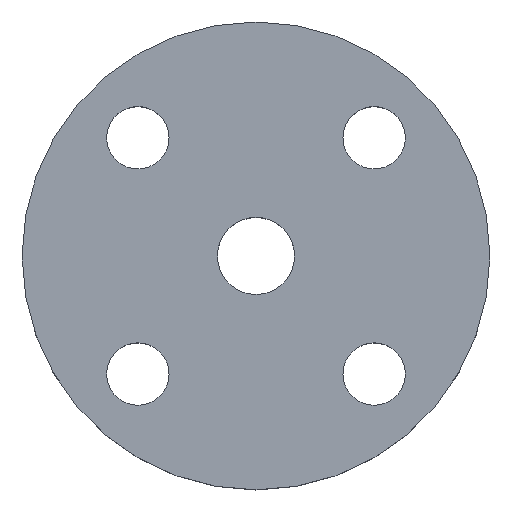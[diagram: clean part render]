
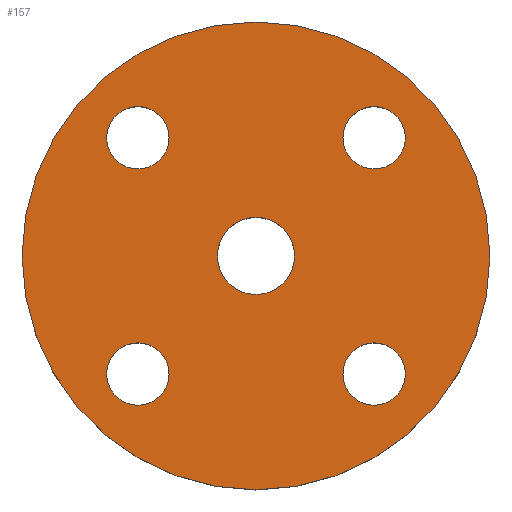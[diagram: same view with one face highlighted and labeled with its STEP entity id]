
A CAD part, top view. The second image highlights one B-rep face of the part: STEP entity #157.
In plain terms, the highlighted planar face has unit normal (0, 0, 1).
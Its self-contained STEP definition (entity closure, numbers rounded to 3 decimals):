
#1 = EDGE_CURVE ( 'NONE', #408, #425, #511, .T. ) ;
#5 = AXIS2_PLACEMENT_3D ( 'NONE', #548, #549, #550 ) ;
#11 = AXIS2_PLACEMENT_3D ( 'NONE', #148, #146, #162 ) ;
#16 = CIRCLE ( 'NONE', #5, 7. ) ;
#19 = AXIS2_PLACEMENT_3D ( 'NONE', #229, #230, #231 ) ;
#46 = DIRECTION ( 'NONE',  ( 0., 0., -1. ) ) ;
#47 = CARTESIAN_POINT ( 'NONE',  ( 26.517, -26.517, 0. ) ) ;
#49 = CIRCLE ( 'NONE', #142, 7. ) ;
#67 = AXIS2_PLACEMENT_3D ( 'NONE', #617, #618, #619 ) ;
#69 = EDGE_CURVE ( 'NONE', #416, #431, #145, .T. ) ;
#85 = AXIS2_PLACEMENT_3D ( 'NONE', #605, #606, #607 ) ;
#96 = CARTESIAN_POINT ( 'NONE',  ( 8.647, 0., 0. ) ) ;
#97 = CARTESIAN_POINT ( 'NONE',  ( -26.517, 26.517, 0. ) ) ;
#98 = CIRCLE ( 'NONE', #19, 8.647 ) ;
#99 = DIRECTION ( 'NONE',  ( 0., 0., -1. ) ) ;
#100 = DIRECTION ( 'NONE',  ( -1., 0., 0. ) ) ;
#127 = EDGE_CURVE ( 'NONE', #296, #405, #202, .T. ) ;
#128 = CARTESIAN_POINT ( 'NONE',  ( -33.517, -26.517, 0. ) ) ;
#140 = AXIS2_PLACEMENT_3D ( 'NONE', #474, #475, #476 ) ;
#141 = EDGE_CURVE ( 'NONE', #407, #439, #209, .T. ) ;
#142 = AXIS2_PLACEMENT_3D ( 'NONE', #563, #564, #568 ) ;
#144 = CIRCLE ( 'NONE', #458, 7. ) ;
#145 = CIRCLE ( 'NONE', #140, 52.5 ) ;
#146 = DIRECTION ( 'NONE',  ( 0., 0., 1. ) ) ;
#148 = CARTESIAN_POINT ( 'NONE',  ( 0., 0., 0. ) ) ;
#149 = CIRCLE ( 'NONE', #85, 7. ) ;
#157 = ADVANCED_FACE ( 'NONE', ( #519, #520, #521, #522, #523, #524 ), #525, .T. ) ;
#158 = AXIS2_PLACEMENT_3D ( 'NONE', #499, #500, #501 ) ;
#162 = DIRECTION ( 'NONE',  ( 1., 0., 0. ) ) ;
#163 = CARTESIAN_POINT ( 'NONE',  ( 19.517, -26.517, 0. ) ) ;
#174 = EDGE_CURVE ( 'NONE', #415, #362, #16, .T. ) ;
#180 = EDGE_LOOP ( 'NONE', ( #333, #334 ) ) ;
#182 = EDGE_LOOP ( 'NONE', ( #344, #345 ) ) ;
#185 = EDGE_CURVE ( 'NONE', #425, #408, #49, .T. ) ;
#186 = CIRCLE ( 'NONE', #11, 52.5 ) ;
#194 = AXIS2_PLACEMENT_3D ( 'NONE', #505, #506, #508 ) ;
#202 = CIRCLE ( 'NONE', #158, 8.647 ) ;
#209 = CIRCLE ( 'NONE', #194, 7. ) ;
#211 = EDGE_CURVE ( 'NONE', #362, #415, #149, .T. ) ;
#216 = CARTESIAN_POINT ( 'NONE',  ( -8.647, 0., 0. ) ) ;
#217 = CARTESIAN_POINT ( 'NONE',  ( 19.517, 26.517, 0. ) ) ;
#220 = CARTESIAN_POINT ( 'NONE',  ( -19.517, -26.517, 0. ) ) ;
#221 = CARTESIAN_POINT ( 'NONE',  ( 52.5, 0., 0. ) ) ;
#228 = CARTESIAN_POINT ( 'NONE',  ( -19.517, 26.517, 0. ) ) ;
#229 = CARTESIAN_POINT ( 'NONE',  ( 0., 0., 0. ) ) ;
#230 = DIRECTION ( 'NONE',  ( 0., 0., 1. ) ) ;
#231 = DIRECTION ( 'NONE',  ( 1., 0., 0. ) ) ;
#232 = CARTESIAN_POINT ( 'NONE',  ( 33.517, 26.517, 0. ) ) ;
#236 = EDGE_CURVE ( 'NONE', #422, #436, #585, .T. ) ;
#237 = CARTESIAN_POINT ( 'NONE',  ( -52.5, 0., 0. ) ) ;
#239 = CARTESIAN_POINT ( 'NONE',  ( -33.517, 26.517, 0. ) ) ;
#244 = CIRCLE ( 'NONE', #272, 7. ) ;
#245 = CARTESIAN_POINT ( 'NONE',  ( 33.517, -26.517, 0. ) ) ;
#269 = DIRECTION ( 'NONE',  ( -1., 0., 0. ) ) ;
#272 = AXIS2_PLACEMENT_3D ( 'NONE', #97, #99, #100 ) ;
#296 = VERTEX_POINT ( 'NONE', #96 ) ;
#299 = EDGE_CURVE ( 'NONE', #436, #422, #244, .T. ) ;
#327 = EDGE_LOOP ( 'NONE', ( #342, #343 ) ) ;
#333 = ORIENTED_EDGE ( 'NONE', *, *, #565, .T. ) ;
#334 = ORIENTED_EDGE ( 'NONE', *, *, #141, .T. ) ;
#335 = ORIENTED_EDGE ( 'NONE', *, *, #174, .T. ) ;
#336 = ORIENTED_EDGE ( 'NONE', *, *, #211, .T. ) ;
#337 = ORIENTED_EDGE ( 'NONE', *, *, #236, .T. ) ;
#338 = ORIENTED_EDGE ( 'NONE', *, *, #299, .T. ) ;
#339 = ORIENTED_EDGE ( 'NONE', *, *, #185, .T. ) ;
#341 = ORIENTED_EDGE ( 'NONE', *, *, #1, .T. ) ;
#342 = ORIENTED_EDGE ( 'NONE', *, *, #127, .F. ) ;
#343 = ORIENTED_EDGE ( 'NONE', *, *, #423, .F. ) ;
#344 = ORIENTED_EDGE ( 'NONE', *, *, #69, .T. ) ;
#345 = ORIENTED_EDGE ( 'NONE', *, *, #396, .T. ) ;
#362 = VERTEX_POINT ( 'NONE', #128 ) ;
#396 = EDGE_CURVE ( 'NONE', #431, #416, #186, .T. ) ;
#405 = VERTEX_POINT ( 'NONE', #216 ) ;
#407 = VERTEX_POINT ( 'NONE', #163 ) ;
#408 = VERTEX_POINT ( 'NONE', #217 ) ;
#415 = VERTEX_POINT ( 'NONE', #220 ) ;
#416 = VERTEX_POINT ( 'NONE', #221 ) ;
#422 = VERTEX_POINT ( 'NONE', #228 ) ;
#423 = EDGE_CURVE ( 'NONE', #405, #296, #98, .T. ) ;
#424 = EDGE_LOOP ( 'NONE', ( #337, #338 ) ) ;
#425 = VERTEX_POINT ( 'NONE', #232 ) ;
#429 = EDGE_LOOP ( 'NONE', ( #339, #341 ) ) ;
#431 = VERTEX_POINT ( 'NONE', #237 ) ;
#435 = EDGE_LOOP ( 'NONE', ( #335, #336 ) ) ;
#436 = VERTEX_POINT ( 'NONE', #239 ) ;
#439 = VERTEX_POINT ( 'NONE', #245 ) ;
#440 = CARTESIAN_POINT ( 'NONE',  ( 26.517, 26.517, 0. ) ) ;
#441 = DIRECTION ( 'NONE',  ( 0., 0., -1. ) ) ;
#442 = DIRECTION ( 'NONE',  ( -1., 0., 0. ) ) ;
#458 = AXIS2_PLACEMENT_3D ( 'NONE', #47, #46, #269 ) ;
#474 = CARTESIAN_POINT ( 'NONE',  ( 0., 0., 0. ) ) ;
#475 = DIRECTION ( 'NONE',  ( 0., 0., 1. ) ) ;
#476 = DIRECTION ( 'NONE',  ( 1., 0., 0. ) ) ;
#497 = AXIS2_PLACEMENT_3D ( 'NONE', #440, #441, #442 ) ;
#499 = CARTESIAN_POINT ( 'NONE',  ( 0., 0., 0. ) ) ;
#500 = DIRECTION ( 'NONE',  ( 0., 0., 1. ) ) ;
#501 = DIRECTION ( 'NONE',  ( 1., 0., 0. ) ) ;
#505 = CARTESIAN_POINT ( 'NONE',  ( 26.517, -26.517, 0. ) ) ;
#506 = DIRECTION ( 'NONE',  ( 0., 0., -1. ) ) ;
#508 = DIRECTION ( 'NONE',  ( -1., 0., 0. ) ) ;
#511 = CIRCLE ( 'NONE', #497, 7. ) ;
#519 = FACE_BOUND ( 'NONE', #180, .T. ) ;
#520 = FACE_BOUND ( 'NONE', #435, .T. ) ;
#521 = FACE_BOUND ( 'NONE', #424, .T. ) ;
#522 = FACE_BOUND ( 'NONE', #429, .T. ) ;
#523 = FACE_BOUND ( 'NONE', #327, .T. ) ;
#524 = FACE_OUTER_BOUND ( 'NONE', #182, .T. ) ;
#525 = PLANE ( 'NONE',  #566 ) ;
#526 = CARTESIAN_POINT ( 'NONE',  ( 0., 0., 0. ) ) ;
#527 = DIRECTION ( 'NONE',  ( 0., 0., 1. ) ) ;
#528 = DIRECTION ( 'NONE',  ( 1., 0., 0. ) ) ;
#548 = CARTESIAN_POINT ( 'NONE',  ( -26.517, -26.517, 0. ) ) ;
#549 = DIRECTION ( 'NONE',  ( 0., 0., -1. ) ) ;
#550 = DIRECTION ( 'NONE',  ( -1., 0., 0. ) ) ;
#563 = CARTESIAN_POINT ( 'NONE',  ( 26.517, 26.517, 0. ) ) ;
#564 = DIRECTION ( 'NONE',  ( 0., 0., -1. ) ) ;
#565 = EDGE_CURVE ( 'NONE', #439, #407, #144, .T. ) ;
#566 = AXIS2_PLACEMENT_3D ( 'NONE', #526, #527, #528 ) ;
#568 = DIRECTION ( 'NONE',  ( -1., 0., 0. ) ) ;
#585 = CIRCLE ( 'NONE', #67, 7. ) ;
#605 = CARTESIAN_POINT ( 'NONE',  ( -26.517, -26.517, 0. ) ) ;
#606 = DIRECTION ( 'NONE',  ( 0., 0., -1. ) ) ;
#607 = DIRECTION ( 'NONE',  ( -1., 0., 0. ) ) ;
#617 = CARTESIAN_POINT ( 'NONE',  ( -26.517, 26.517, 0. ) ) ;
#618 = DIRECTION ( 'NONE',  ( 0., 0., -1. ) ) ;
#619 = DIRECTION ( 'NONE',  ( -1., 0., 0. ) ) ;
